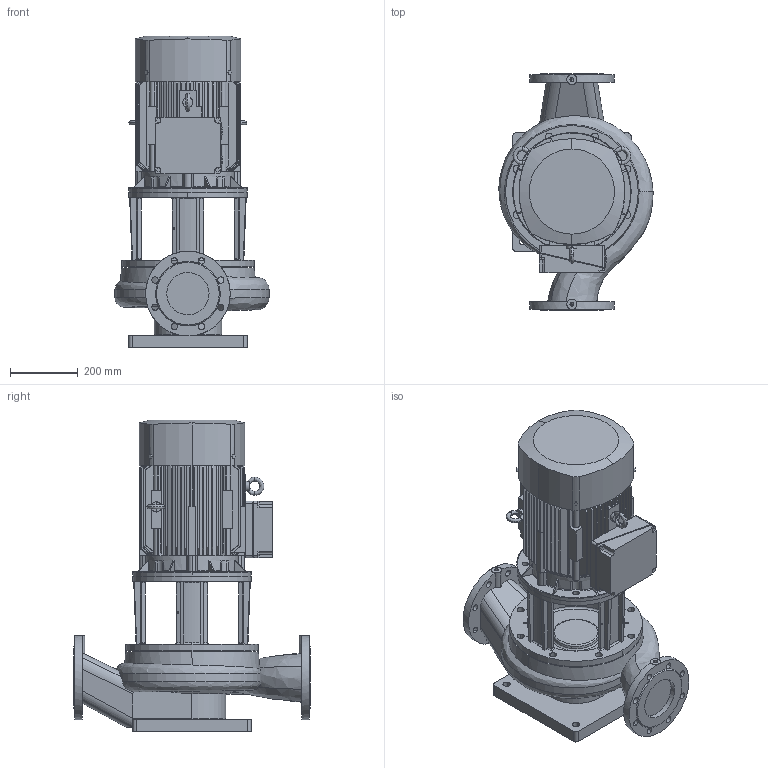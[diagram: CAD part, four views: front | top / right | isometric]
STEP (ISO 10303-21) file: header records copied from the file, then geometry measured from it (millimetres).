
FILE_DESCRIPTION(('STEP AP214'),'1');
FILE_NAME('export.stp','2018-05-30T06:34:02',(' '),(' '),'Spatial InterOp 3D',' ',' ');
FILE_SCHEMA(('AUTOMOTIVE_DESIGN { 1 0 10303 214 1 1 1 1 }'));
Length unit declared in the file: millimetre
Products named in the file (7): V_PPALP1128; PP_ALP1128_kesken; Tukijalka_ALP1128; W_ALP11284SD150; V_TL110611291154; VEM_160_M4; P100781
Assembly tree (6 placements, depth 3):
  W_ALP11284SD150
    V_PPALP1128
      PP_ALP1128_kesken
      Tukijalka_ALP1128
    V_TL110611291154
    VEM_160_M4
    P100781
Bounding box: 455.85 x 700 x 920.75 mm (x, y, z)
Volume: 67653144.7 mm3; surface area: 3366550.8 mm2
Topology: 5 solids, 5 shells, 1068 faces, 3022 edges, 1986 vertices
Faces by surface type: plane 465, cylinder 366, cone 146, bspline 47, torus 44
Entity records: 51398 total; most frequent: CARTESIAN_POINT 14136, ORIENTED_EDGE 6028, DIRECTION 5367, EDGE_CURVE 3014, VERTEX_POINT 1984, AXIS2_PLACEMENT_3D 1959, LINE 1449, VECTOR 1449
